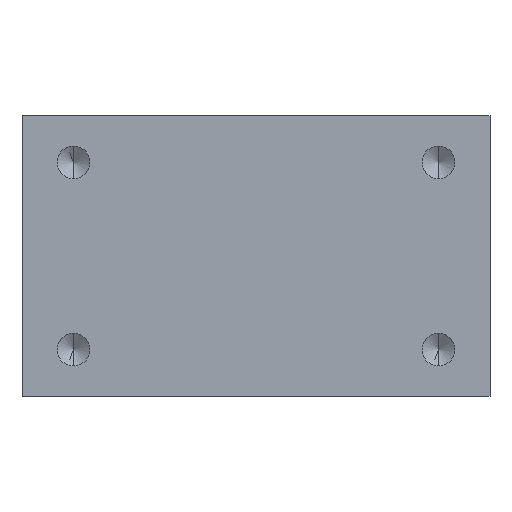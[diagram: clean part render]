
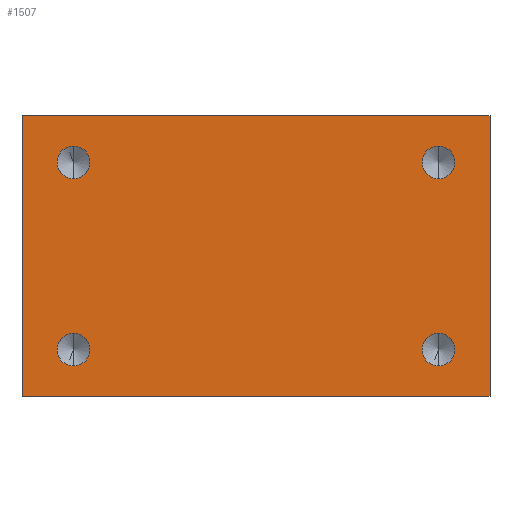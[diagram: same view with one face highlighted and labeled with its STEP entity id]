
A CAD part, front view. The second image highlights one B-rep face of the part: STEP entity #1507.
In plain terms, the highlighted planar face has unit normal (0, -1, 0).
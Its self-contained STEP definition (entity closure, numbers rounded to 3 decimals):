
#113 = VECTOR ( 'NONE', #1478, 1000. ) ;
#183 = DIRECTION ( 'NONE',  ( 0., -1., 0. ) ) ;
#194 = DIRECTION ( 'NONE',  ( 0., 0., -1. ) ) ;
#357 = DIRECTION ( 'NONE',  ( 0., 0., -1. ) ) ;
#370 = VERTEX_POINT ( 'NONE', #1326 ) ;
#491 = CIRCLE ( 'NONE', #6334, 3.5 ) ;
#533 = DIRECTION ( 'NONE',  ( 0., -1., 0. ) ) ;
#561 = CARTESIAN_POINT ( 'NONE',  ( 89., 0., -50. ) ) ;
#567 = DIRECTION ( 'NONE',  ( 0., -1., 0. ) ) ;
#653 = AXIS2_PLACEMENT_3D ( 'NONE', #5022, #183, #3989 ) ;
#656 = EDGE_CURVE ( 'NONE', #2335, #4024, #491, .T. ) ;
#746 = VERTEX_POINT ( 'NONE', #3143 ) ;
#785 = PLANE ( 'NONE',  #1215 ) ;
#931 = CIRCLE ( 'NONE', #5870, 3.5 ) ;
#1019 = VERTEX_POINT ( 'NONE', #3990 ) ;
#1030 = VERTEX_POINT ( 'NONE', #4439 ) ;
#1092 = VECTOR ( 'NONE', #1429, 1000. ) ;
#1215 = AXIS2_PLACEMENT_3D ( 'NONE', #1769, #4042, #4526 ) ;
#1299 = EDGE_LOOP ( 'NONE', ( #2577, #4261 ) ) ;
#1318 = DIRECTION ( 'NONE',  ( 0., -1., 0. ) ) ;
#1326 = CARTESIAN_POINT ( 'NONE',  ( 89., 0., -53.5 ) ) ;
#1384 = AXIS2_PLACEMENT_3D ( 'NONE', #2749, #3278, #5479 ) ;
#1405 = CARTESIAN_POINT ( 'NONE',  ( 11., 0., -10. ) ) ;
#1429 = DIRECTION ( 'NONE',  ( 1., 0., 0. ) ) ;
#1440 = LINE ( 'NONE', #6941, #113 ) ;
#1478 = DIRECTION ( 'NONE',  ( 0., 0., 1. ) ) ;
#1482 = VECTOR ( 'NONE', #3646, 1000. ) ;
#1507 = ADVANCED_FACE ( 'NONE', ( #3456, #4498, #5651, #4109, #5149 ), #785, .T. ) ;
#1582 = VECTOR ( 'NONE', #4237, 1000. ) ;
#1626 = AXIS2_PLACEMENT_3D ( 'NONE', #561, #5529, #6630 ) ;
#1682 = ORIENTED_EDGE ( 'NONE', *, *, #2522, .T. ) ;
#1736 = EDGE_CURVE ( 'NONE', #4119, #1019, #5815, .T. ) ;
#1765 = VERTEX_POINT ( 'NONE', #4865 ) ;
#1769 = CARTESIAN_POINT ( 'NONE',  ( 0., 0., -60. ) ) ;
#1829 = ORIENTED_EDGE ( 'NONE', *, *, #1736, .T. ) ;
#2031 = EDGE_CURVE ( 'NONE', #3802, #1765, #931, .T. ) ;
#2222 = EDGE_CURVE ( 'NONE', #1765, #3802, #3447, .T. ) ;
#2263 = CARTESIAN_POINT ( 'NONE',  ( 11., 0., -46.5 ) ) ;
#2324 = CARTESIAN_POINT ( 'NONE',  ( 89., 0., -13.5 ) ) ;
#2335 = VERTEX_POINT ( 'NONE', #6879 ) ;
#2522 = EDGE_CURVE ( 'NONE', #1019, #5790, #1440, .T. ) ;
#2556 = EDGE_CURVE ( 'NONE', #1030, #5790, #5904, .T. ) ;
#2577 = ORIENTED_EDGE ( 'NONE', *, *, #656, .F. ) ;
#2624 = ORIENTED_EDGE ( 'NONE', *, *, #5702, .F. ) ;
#2637 = DIRECTION ( 'NONE',  ( 0., -1., 0. ) ) ;
#2749 = CARTESIAN_POINT ( 'NONE',  ( 89., 0., -10. ) ) ;
#2755 = CARTESIAN_POINT ( 'NONE',  ( 11., 0., -6.5 ) ) ;
#2771 = DIRECTION ( 'NONE',  ( 0., 0., -1. ) ) ;
#2886 = CIRCLE ( 'NONE', #1384, 3.5 ) ;
#2902 = ORIENTED_EDGE ( 'NONE', *, *, #3754, .F. ) ;
#3094 = ORIENTED_EDGE ( 'NONE', *, *, #2556, .F. ) ;
#3127 = LINE ( 'NONE', #5178, #1582 ) ;
#3143 = CARTESIAN_POINT ( 'NONE',  ( 89., 0., -6.5 ) ) ;
#3278 = DIRECTION ( 'NONE',  ( 0., -1., 0. ) ) ;
#3286 = CARTESIAN_POINT ( 'NONE',  ( 89., 0., -46.5 ) ) ;
#3310 = CIRCLE ( 'NONE', #653, 3.5 ) ;
#3359 = VERTEX_POINT ( 'NONE', #2324 ) ;
#3402 = DIRECTION ( 'NONE',  ( 0., 0., -1. ) ) ;
#3447 = CIRCLE ( 'NONE', #6191, 3.5 ) ;
#3456 = FACE_BOUND ( 'NONE', #6598, .T. ) ;
#3514 = EDGE_CURVE ( 'NONE', #746, #3359, #2886, .T. ) ;
#3536 = ORIENTED_EDGE ( 'NONE', *, *, #6759, .F. ) ;
#3646 = DIRECTION ( 'NONE',  ( 1., 0., 0. ) ) ;
#3754 = EDGE_CURVE ( 'NONE', #370, #6204, #3931, .T. ) ;
#3802 = VERTEX_POINT ( 'NONE', #2263 ) ;
#3931 = CIRCLE ( 'NONE', #1626, 3.5 ) ;
#3989 = DIRECTION ( 'NONE',  ( 0., 0., -1. ) ) ;
#3990 = CARTESIAN_POINT ( 'NONE',  ( 100., 0., -60. ) ) ;
#4006 = EDGE_LOOP ( 'NONE', ( #2902, #3536 ) ) ;
#4024 = VERTEX_POINT ( 'NONE', #2755 ) ;
#4042 = DIRECTION ( 'NONE',  ( 0., -1., 0. ) ) ;
#4109 = FACE_BOUND ( 'NONE', #4006, .T. ) ;
#4119 = VERTEX_POINT ( 'NONE', #6031 ) ;
#4153 = EDGE_CURVE ( 'NONE', #3359, #746, #6556, .T. ) ;
#4176 = EDGE_LOOP ( 'NONE', ( #4413, #6475 ) ) ;
#4237 = DIRECTION ( 'NONE',  ( 0., 0., 1. ) ) ;
#4261 = ORIENTED_EDGE ( 'NONE', *, *, #6100, .F. ) ;
#4413 = ORIENTED_EDGE ( 'NONE', *, *, #2222, .F. ) ;
#4439 = CARTESIAN_POINT ( 'NONE',  ( 0., 0., 0. ) ) ;
#4498 = FACE_BOUND ( 'NONE', #4176, .T. ) ;
#4526 = DIRECTION ( 'NONE',  ( 0., 0., -1. ) ) ;
#4674 = CARTESIAN_POINT ( 'NONE',  ( 0., 0., -60. ) ) ;
#4815 = CIRCLE ( 'NONE', #5721, 3.5 ) ;
#4853 = AXIS2_PLACEMENT_3D ( 'NONE', #5500, #567, #2771 ) ;
#4865 = CARTESIAN_POINT ( 'NONE',  ( 11., 0., -53.5 ) ) ;
#5022 = CARTESIAN_POINT ( 'NONE',  ( 11., 0., -10. ) ) ;
#5149 = FACE_OUTER_BOUND ( 'NONE', #5982, .T. ) ;
#5178 = CARTESIAN_POINT ( 'NONE',  ( 0., 0., -60. ) ) ;
#5278 = CARTESIAN_POINT ( 'NONE',  ( 100., 0., 0. ) ) ;
#5479 = DIRECTION ( 'NONE',  ( 0., 0., -1. ) ) ;
#5500 = CARTESIAN_POINT ( 'NONE',  ( 89., 0., -10. ) ) ;
#5505 = CARTESIAN_POINT ( 'NONE',  ( 89., 0., -50. ) ) ;
#5529 = DIRECTION ( 'NONE',  ( 0., -1., 0. ) ) ;
#5651 = FACE_BOUND ( 'NONE', #1299, .T. ) ;
#5702 = EDGE_CURVE ( 'NONE', #4119, #1030, #3127, .T. ) ;
#5721 = AXIS2_PLACEMENT_3D ( 'NONE', #5505, #6679, #194 ) ;
#5790 = VERTEX_POINT ( 'NONE', #5278 ) ;
#5815 = LINE ( 'NONE', #4674, #1092 ) ;
#5870 = AXIS2_PLACEMENT_3D ( 'NONE', #6163, #1318, #6744 ) ;
#5904 = LINE ( 'NONE', #6976, #1482 ) ;
#5982 = EDGE_LOOP ( 'NONE', ( #3094, #2624, #1829, #1682 ) ) ;
#6027 = ORIENTED_EDGE ( 'NONE', *, *, #4153, .F. ) ;
#6031 = CARTESIAN_POINT ( 'NONE',  ( 0., 0., -60. ) ) ;
#6032 = CARTESIAN_POINT ( 'NONE',  ( 11., 0., -50. ) ) ;
#6057 = ORIENTED_EDGE ( 'NONE', *, *, #3514, .F. ) ;
#6100 = EDGE_CURVE ( 'NONE', #4024, #2335, #3310, .T. ) ;
#6163 = CARTESIAN_POINT ( 'NONE',  ( 11., 0., -50. ) ) ;
#6191 = AXIS2_PLACEMENT_3D ( 'NONE', #6032, #533, #3402 ) ;
#6204 = VERTEX_POINT ( 'NONE', #3286 ) ;
#6334 = AXIS2_PLACEMENT_3D ( 'NONE', #1405, #2637, #357 ) ;
#6475 = ORIENTED_EDGE ( 'NONE', *, *, #2031, .F. ) ;
#6556 = CIRCLE ( 'NONE', #4853, 3.5 ) ;
#6598 = EDGE_LOOP ( 'NONE', ( #6027, #6057 ) ) ;
#6630 = DIRECTION ( 'NONE',  ( 0., 0., -1. ) ) ;
#6679 = DIRECTION ( 'NONE',  ( 0., -1., 0. ) ) ;
#6744 = DIRECTION ( 'NONE',  ( 0., 0., -1. ) ) ;
#6759 = EDGE_CURVE ( 'NONE', #6204, #370, #4815, .T. ) ;
#6879 = CARTESIAN_POINT ( 'NONE',  ( 11., 0., -13.5 ) ) ;
#6941 = CARTESIAN_POINT ( 'NONE',  ( 100., 0., -60. ) ) ;
#6976 = CARTESIAN_POINT ( 'NONE',  ( 0., 0., 0. ) ) ;
